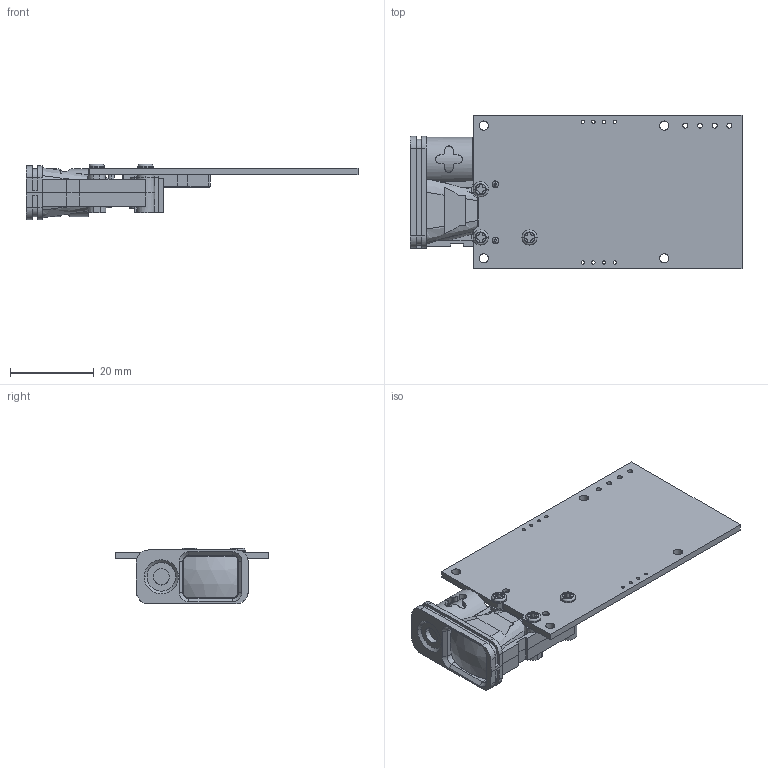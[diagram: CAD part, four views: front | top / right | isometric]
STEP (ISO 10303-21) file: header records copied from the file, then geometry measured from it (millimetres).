
FILE_DESCRIPTION((''),'2;1');
FILE_NAME('L3_ASM','2020-02-27T',('me'),(''),'PRO/ENGINEER BY PARAMETRIC TECHNOLOGY CORPORATION, 2010280','PRO/ENGINEER BY PARAMETRIC TECHNOLOGY CORPORATION, 2010280','');
FILE_SCHEMA(('CONFIG_CONTROL_DESIGN'));
Length unit declared in the file: millimetre
Products named in the file (12): JGCJ-PCB_2; JGCJ-PCBA-ALL_ASM_4_ASM_ASM; I1_GUANGJIGOU2_20151012_29; MANIFOLD_SOLID_BREP__22683_3_3_; MANIFOLD_SOLID_BREP_37982_1_4_1; LGP; 0-D5-20150827_ASM_25_ASM_4_ASM_ASM; MIN-PCB; M2-6; JGCJ-ASM_ASM_25_ASM_ASM; P1-01-1018; L3_ASM
Assembly tree (16 placements, depth 4):
  L3_ASM
    JGCJ-ASM_ASM_25_ASM_ASM
      JGCJ-PCBA-ALL_ASM_4_ASM_ASM
        JGCJ-PCB_2
      0-D5-20150827_ASM_25_ASM_4_ASM_ASM
        I1_GUANGJIGOU2_20151012_29
        MANIFOLD_SOLID_BREP__22683_3_3_
        MANIFOLD_SOLID_BREP_37982_1_4_1
        LGP
      MIN-PCB
      M2-6  x3
    M2-6  x3
    P1-01-1018
Bounding box: 79.05 x 36.61 x 13.2 mm (x, y, z)
Volume: 7822.3 mm3; surface area: 11618.6 mm2
Topology: 13 solids, 13 shells, 784 faces, 2158 edges, 1441 vertices
Faces by surface type: plane 432, cylinder 167, extrusion 80, cone 43, bspline 31, torus 30, sphere 1
Entity records: 25881 total; most frequent: CARTESIAN_POINT 9219, ORIENTED_EDGE 3636, DIRECTION 3031, EDGE_CURVE 1818, VERTEX_POINT 1221, VECTOR 1101, LINE 1021, AXIS2_PLACEMENT_3D 965
